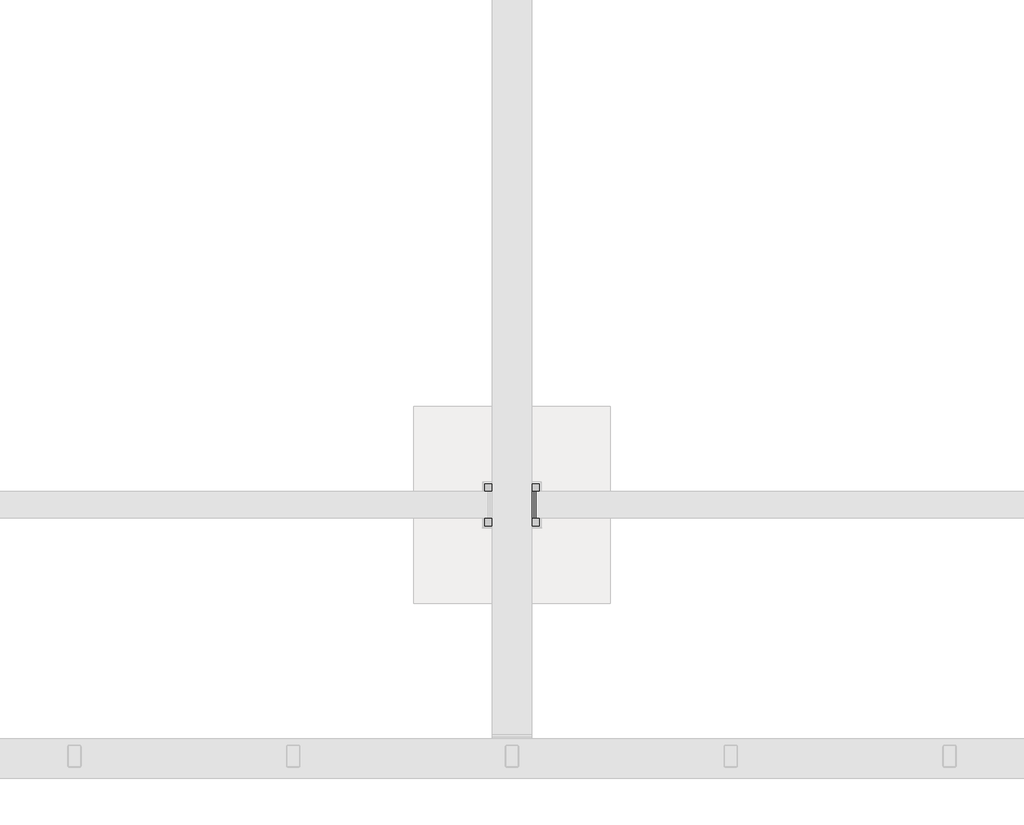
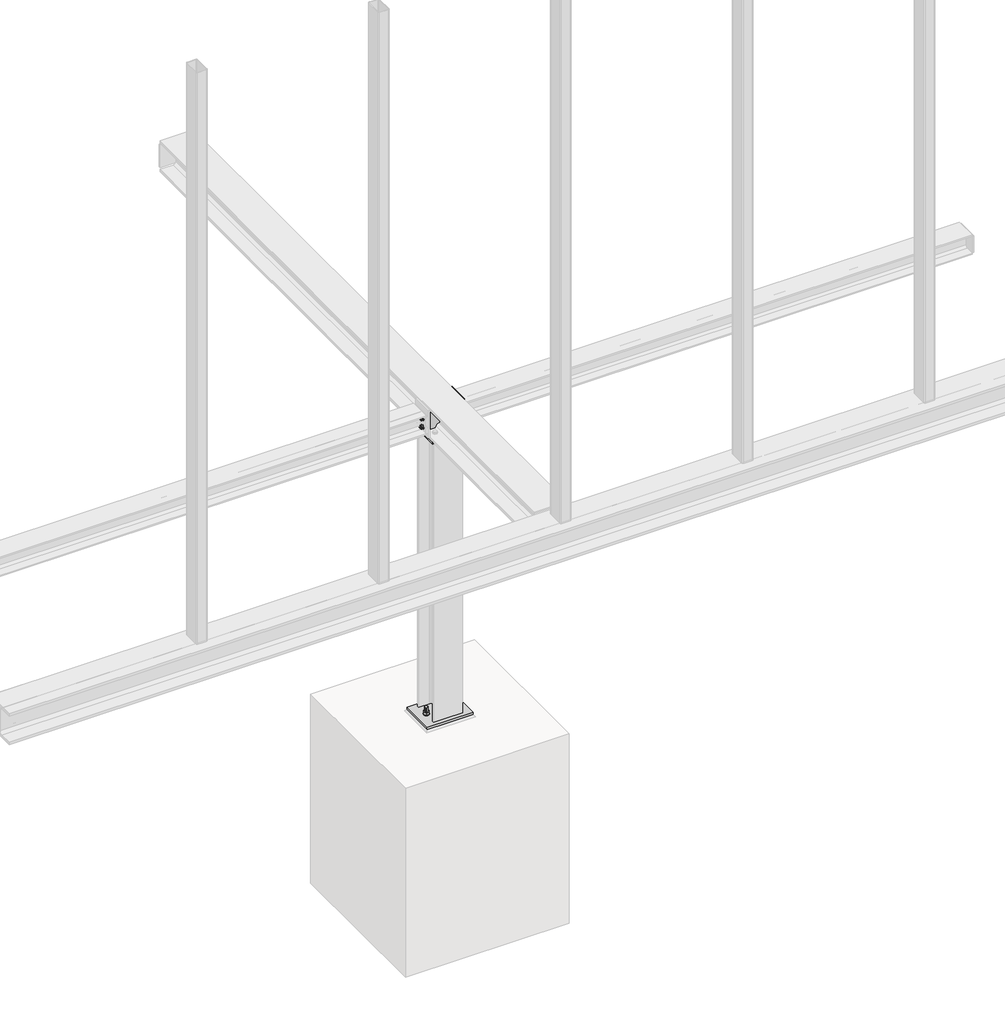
# One storey, part 5 of 31: 9 proxies.
"""IFC4 building model written with IfcOpenShell, lengths in millimetres."""

from ifc_helpers import new_model, si_unit, point, frame, frame_2d, origin, place, context, project, spatial, polyline, circle_curve, trimmed, segment, composite_curve, outline, extrude, element, save

model = new_model("IFC4")

# Units and contexts
model_context = context("Model", 3, world=origin())
ifc_project = project(units=[si_unit("LENGTHUNIT", "METRE", prefix="MILLI")], contexts=[model_context])

# Site, building, storey
site = spatial("IfcSite", under=ifc_project)
building = spatial("IfcBuilding", under=site)
storey = spatial("IfcBuildingStorey", under=building, Name="Základy", Elevation=-1200.0)

# Proxies
placement = place(None, origin())
element("IfcBuildingElementProxy", 1, Name="PLECH", ObjectType="PLECH", at=placement, inside=storey, context=model_context, shape_type="SweptSolid", body=[
    extrude(outline(polyline([(3150.0, 1200.0), (3150.0, 1320.0), (3160.0, 1320.0), (3160.0, 1200.0), (3150.0, 1200.0)])), frame((0.0, 0.0, -299.0), z_axis=(0.0, 0.0, 1.0), x_axis=(1.0, 0.0, 0.0)), (0.0, 0.0, 1.0), 98.0),
])
element("IfcBuildingElementProxy", 2, Name="PLECH", ObjectType="PLECH", at=placement, inside=storey, context=model_context, shape_type="SweptSolid", body=[
    extrude(outline(composite_curve([segment(polyline([(-174.0, 2960.0), (-326.0, 2960.0), (-326.0, 3020.5)]), True, "CONTINUOUS"), segment(trimmed(circle_curve(frame_2d((-326.0, 3045.5)), 25.0), [point((-326.0, 3020.5))], [point((-301.0, 3045.5))], True, "CARTESIAN"), True, "CONTINUOUS"), segment(polyline([(-301.0, 3045.5), (-199.0, 3045.5)]), True, "CONTINUOUS"), segment(trimmed(circle_curve(frame_2d((-174.0, 3045.5)), 25.0), [point((-199.0, 3045.5))], [point((-174.0, 3020.5))], True, "CARTESIAN"), True, "CONTINUOUS"), segment(polyline([(-174.0, 3020.5), (-174.0, 2960.0)]), True, "CONTINUOUS")], self_intersect=False)), frame((0.0, 1256.0, 0.0), z_axis=(0.0, 1.0, 0.0), x_axis=(0.0, 0.0, 1.0)), (0.0, 0.0, 1.0), 8.0),
])
element("IfcBuildingElementProxy", 3, Name="PLECH", ObjectType="PLECH", at=placement, inside=storey, context=model_context, shape_type="SweptSolid", body=[
    extrude(outline(polyline([(3140.0, 1200.0), (3140.0, 1320.0), (3150.0, 1320.0), (3150.0, 1200.0), (3140.0, 1200.0)])), frame((0.0, 0.0, -332.0), z_axis=(0.0, 0.0, 1.0), x_axis=(1.0, 0.0, 0.0)), (0.0, 0.0, 1.0), 164.0),
])
element("IfcBuildingElementProxy", 4, Name="PLECH", ObjectType="PLECH", at=placement, inside=storey, context=model_context, shape_type="SweptSolid", body=[
    extrude(outline(composite_curve([segment(polyline([(-174.0, 3140.0), (-174.0, 3079.5)]), True, "CONTINUOUS"), segment(trimmed(circle_curve(frame_2d((-174.0, 3054.5)), 25.0), [point((-174.0, 3079.5))], [point((-199.0, 3054.5))], True, "CARTESIAN"), True, "CONTINUOUS"), segment(polyline([(-199.0, 3054.5), (-301.0, 3054.5)]), True, "CONTINUOUS"), segment(trimmed(circle_curve(frame_2d((-326.0, 3054.5)), 25.0), [point((-301.0, 3054.5))], [point((-326.0, 3079.5))], True, "CARTESIAN"), True, "CONTINUOUS"), segment(polyline([(-326.0, 3079.5), (-326.0, 3140.0), (-174.0, 3140.0)]), True, "CONTINUOUS")], self_intersect=False)), frame((0.0, 1256.0, 0.0), z_axis=(0.0, 1.0, 0.0), x_axis=(0.0, 0.0, 1.0)), (0.0, 0.0, 1.0), 8.0),
])
element("IfcBuildingElementProxy", 5, Name="PLECH", ObjectType="PLECH", at=placement, inside=storey, context=model_context, shape_type="SweptSolid", body=[
    extrude(outline(polyline([(3175.0, 1356.0), (3175.0, 1164.0), (2925.0, 1164.0), (2925.0, 1356.0), (3175.0, 1356.0)])), frame((0.0, 0.0, -1990.0), z_axis=(0.0, 0.0, 1.0), x_axis=(1.0, 0.0, 0.0)), (0.0, 0.0, 1.0), 15.0),
])
element("IfcBuildingElementProxy", 6, Name="PLECH", ObjectType="PLECH", at=placement, inside=storey, context=model_context, shape_type="SweptSolid", body=[
    extrude(outline(polyline([(3140.0, 1346.0), (3140.0, 1174.0), (2960.0, 1174.0), (2960.0, 1346.0), (3140.0, 1346.0)])), frame((0.0, 0.0, -350.0), z_axis=(0.0, 0.0, 1.0), x_axis=(1.0, 0.0, 0.0)), (0.0, 0.0, 1.0), 10.0),
])
element("IfcBuildingElementProxy", 7, Name="Bolt assembly", ObjectType="Bolt assembly", at=placement, inside=storey, context=model_context, shape_type="SweptSolid", body=[
    extrude(outline(composite_curve([segment(trimmed(circle_curve(frame_2d((1230.0, -225.0)), 6.5), [point((1230.0, -231.5))], [point((1230.0, -218.5))], False, "CARTESIAN"), True, "CONTINUOUS"), segment(trimmed(circle_curve(frame_2d((1230.0, -225.0)), 6.5), [point((1230.0, -218.5))], [point((1230.0, -231.5))], False, "CARTESIAN"), True, "CONTINUOUS")], self_intersect=False)), frame((2949.9, 0.0, 0.0), z_axis=(1.0, 0.0, 0.0), x_axis=(0.0, 1.0, 0.0)), (0.0, 0.0, 1.0), 10.0),
    extrude(outline(polyline([(1230.0, -235.3923048), (1221.0, -230.1961524), (1221.0, -219.8038476), (1230.0, -214.6076952), (1239.0, -219.8038476), (1239.0, -230.1961524), (1230.0, -235.3923048)])), frame((2962.5, 0.0, 0.0), z_axis=(1.0, 0.0, 0.0), x_axis=(0.0, 1.0, 0.0)), (0.0, 0.0, 1.0), 7.5),
    extrude(outline(composite_curve([segment(trimmed(circle_curve(frame_2d((1230.0, -225.0)), 6.0), [point((1230.0, -231.0))], [point((1230.0, -219.0))], False, "CARTESIAN"), True, "CONTINUOUS"), segment(trimmed(circle_curve(frame_2d((1230.0, -225.0)), 6.0), [point((1230.0, -219.0))], [point((1230.0, -231.0))], False, "CARTESIAN"), True, "CONTINUOUS")], self_intersect=False)), frame((2922.5, 0.0, 0.0), z_axis=(1.0, 0.0, 0.0), x_axis=(0.0, 1.0, 0.0)), (0.0, 0.0, 1.0), 40.0),
    extrude(outline(composite_curve([segment(trimmed(circle_curve(frame_2d((1230.0, -225.0)), 12.0), [point((1230.0, -237.0))], [point((1230.0, -213.0))], False, "CARTESIAN"), True, "CONTINUOUS"), segment(trimmed(circle_curve(frame_2d((1230.0, -225.0)), 12.0), [point((1230.0, -213.0))], [point((1230.0, -237.0))], False, "CARTESIAN"), True, "CONTINUOUS")], self_intersect=False)), frame((2960.0, 0.0, 0.0), z_axis=(1.0, 0.0, 0.0), x_axis=(0.0, 1.0, 0.0)), (0.0, 0.0, 1.0), 2.5),
    extrude(outline(composite_curve([segment(trimmed(circle_curve(frame_2d((1230.0, -225.0)), 12.0), [point((1230.0, -237.0))], [point((1230.0, -213.0))], False, "CARTESIAN"), True, "CONTINUOUS"), segment(trimmed(circle_curve(frame_2d((1230.0, -225.0)), 12.0), [point((1230.0, -213.0))], [point((1230.0, -237.0))], False, "CARTESIAN"), True, "CONTINUOUS")], self_intersect=False)), frame((2937.5, 0.0, 0.0), z_axis=(1.0, 0.0, 0.0), x_axis=(0.0, 1.0, 0.0)), (0.0, 0.0, 1.0), 2.5),
    extrude(outline(polyline([(1230.0, -235.9696551), (1220.5, -230.4848276), (1220.5, -219.5151724), (1230.0, -214.0303449), (1239.5, -219.5151724), (1239.5, -230.4848276), (1230.0, -235.9696551)])), frame((2927.5, 0.0, 0.0), z_axis=(1.0, 0.0, 0.0), x_axis=(0.0, 1.0, 0.0)), (0.0, 0.0, 1.0), 10.0),
    extrude(outline(composite_curve([segment(trimmed(circle_curve(frame_2d((1230.0, -225.0)), 6.5), [point((1230.0, -231.5))], [point((1230.0, -218.5))], False, "CARTESIAN"), True, "CONTINUOUS"), segment(trimmed(circle_curve(frame_2d((1230.0, -225.0)), 6.5), [point((1230.0, -218.5))], [point((1230.0, -231.5))], False, "CARTESIAN"), True, "CONTINUOUS")], self_intersect=False)), frame((2940.0, 0.0, 0.0), z_axis=(1.0, 0.0, 0.0), x_axis=(0.0, 1.0, 0.0)), (0.0, 0.0, 1.0), 10.1),
    extrude(outline(composite_curve([segment(trimmed(circle_curve(frame_2d((1230.0, -275.0)), 6.5), [point((1230.0, -281.5))], [point((1230.0, -268.5))], False, "CARTESIAN"), True, "CONTINUOUS"), segment(trimmed(circle_curve(frame_2d((1230.0, -275.0)), 6.5), [point((1230.0, -268.5))], [point((1230.0, -281.5))], False, "CARTESIAN"), True, "CONTINUOUS")], self_intersect=False)), frame((2949.9, 0.0, 0.0), z_axis=(1.0, 0.0, 0.0), x_axis=(0.0, 1.0, 0.0)), (0.0, 0.0, 1.0), 10.0),
    extrude(outline(polyline([(1230.0, -285.3923048), (1221.0, -280.1961524), (1221.0, -269.8038476), (1230.0, -264.6076952), (1239.0, -269.8038476), (1239.0, -280.1961524), (1230.0, -285.3923048)])), frame((2962.5, 0.0, 0.0), z_axis=(1.0, 0.0, 0.0), x_axis=(0.0, 1.0, 0.0)), (0.0, 0.0, 1.0), 7.5),
    extrude(outline(composite_curve([segment(trimmed(circle_curve(frame_2d((1230.0, -275.0)), 6.0), [point((1230.0, -281.0))], [point((1230.0, -269.0))], False, "CARTESIAN"), True, "CONTINUOUS"), segment(trimmed(circle_curve(frame_2d((1230.0, -275.0)), 6.0), [point((1230.0, -269.0))], [point((1230.0, -281.0))], False, "CARTESIAN"), True, "CONTINUOUS")], self_intersect=False)), frame((2922.5, 0.0, 0.0), z_axis=(1.0, 0.0, 0.0), x_axis=(0.0, 1.0, 0.0)), (0.0, 0.0, 1.0), 40.0),
    extrude(outline(composite_curve([segment(trimmed(circle_curve(frame_2d((1230.0, -275.0)), 12.0), [point((1230.0, -287.0))], [point((1230.0, -263.0))], False, "CARTESIAN"), True, "CONTINUOUS"), segment(trimmed(circle_curve(frame_2d((1230.0, -275.0)), 12.0), [point((1230.0, -263.0))], [point((1230.0, -287.0))], False, "CARTESIAN"), True, "CONTINUOUS")], self_intersect=False)), frame((2960.0, 0.0, 0.0), z_axis=(1.0, 0.0, 0.0), x_axis=(0.0, 1.0, 0.0)), (0.0, 0.0, 1.0), 2.5),
    extrude(outline(composite_curve([segment(trimmed(circle_curve(frame_2d((1230.0, -275.0)), 12.0), [point((1230.0, -287.0))], [point((1230.0, -263.0))], False, "CARTESIAN"), True, "CONTINUOUS"), segment(trimmed(circle_curve(frame_2d((1230.0, -275.0)), 12.0), [point((1230.0, -263.0))], [point((1230.0, -287.0))], False, "CARTESIAN"), True, "CONTINUOUS")], self_intersect=False)), frame((2937.5, 0.0, 0.0), z_axis=(1.0, 0.0, 0.0), x_axis=(0.0, 1.0, 0.0)), (0.0, 0.0, 1.0), 2.5),
    extrude(outline(polyline([(1230.0, -285.9696551), (1220.5, -280.4848276), (1220.5, -269.5151724), (1230.0, -264.0303449), (1239.5, -269.5151724), (1239.5, -280.4848276), (1230.0, -285.9696551)])), frame((2927.5, 0.0, 0.0), z_axis=(1.0, 0.0, 0.0), x_axis=(0.0, 1.0, 0.0)), (0.0, 0.0, 1.0), 10.0),
    extrude(outline(composite_curve([segment(trimmed(circle_curve(frame_2d((1230.0, -275.0)), 6.5), [point((1230.0, -281.5))], [point((1230.0, -268.5))], False, "CARTESIAN"), True, "CONTINUOUS"), segment(trimmed(circle_curve(frame_2d((1230.0, -275.0)), 6.5), [point((1230.0, -268.5))], [point((1230.0, -281.5))], False, "CARTESIAN"), True, "CONTINUOUS")], self_intersect=False)), frame((2940.0, 0.0, 0.0), z_axis=(1.0, 0.0, 0.0), x_axis=(0.0, 1.0, 0.0)), (0.0, 0.0, 1.0), 10.1),
    extrude(outline(composite_curve([segment(trimmed(circle_curve(frame_2d((1290.0, -225.0)), 6.5), [point((1290.0, -231.5))], [point((1290.0, -218.5))], False, "CARTESIAN"), True, "CONTINUOUS"), segment(trimmed(circle_curve(frame_2d((1290.0, -225.0)), 6.5), [point((1290.0, -218.5))], [point((1290.0, -231.5))], False, "CARTESIAN"), True, "CONTINUOUS")], self_intersect=False)), frame((2949.9, 0.0, 0.0), z_axis=(1.0, 0.0, 0.0), x_axis=(0.0, 1.0, 0.0)), (0.0, 0.0, 1.0), 10.0),
    extrude(outline(polyline([(1290.0, -235.3923048), (1281.0, -230.1961524), (1281.0, -219.8038476), (1290.0, -214.6076952), (1299.0, -219.8038476), (1299.0, -230.1961524), (1290.0, -235.3923048)])), frame((2962.5, 0.0, 0.0), z_axis=(1.0, 0.0, 0.0), x_axis=(0.0, 1.0, 0.0)), (0.0, 0.0, 1.0), 7.5),
    extrude(outline(composite_curve([segment(trimmed(circle_curve(frame_2d((1290.0, -225.0)), 6.0), [point((1290.0, -231.0))], [point((1290.0, -219.0))], False, "CARTESIAN"), True, "CONTINUOUS"), segment(trimmed(circle_curve(frame_2d((1290.0, -225.0)), 6.0), [point((1290.0, -219.0))], [point((1290.0, -231.0))], False, "CARTESIAN"), True, "CONTINUOUS")], self_intersect=False)), frame((2922.5, 0.0, 0.0), z_axis=(1.0, 0.0, 0.0), x_axis=(0.0, 1.0, 0.0)), (0.0, 0.0, 1.0), 40.0),
    extrude(outline(composite_curve([segment(trimmed(circle_curve(frame_2d((1290.0, -225.0)), 12.0), [point((1290.0, -237.0))], [point((1290.0, -213.0))], False, "CARTESIAN"), True, "CONTINUOUS"), segment(trimmed(circle_curve(frame_2d((1290.0, -225.0)), 12.0), [point((1290.0, -213.0))], [point((1290.0, -237.0))], False, "CARTESIAN"), True, "CONTINUOUS")], self_intersect=False)), frame((2960.0, 0.0, 0.0), z_axis=(1.0, 0.0, 0.0), x_axis=(0.0, 1.0, 0.0)), (0.0, 0.0, 1.0), 2.5),
    extrude(outline(composite_curve([segment(trimmed(circle_curve(frame_2d((1290.0, -225.0)), 12.0), [point((1290.0, -237.0))], [point((1290.0, -213.0))], False, "CARTESIAN"), True, "CONTINUOUS"), segment(trimmed(circle_curve(frame_2d((1290.0, -225.0)), 12.0), [point((1290.0, -213.0))], [point((1290.0, -237.0))], False, "CARTESIAN"), True, "CONTINUOUS")], self_intersect=False)), frame((2937.5, 0.0, 0.0), z_axis=(1.0, 0.0, 0.0), x_axis=(0.0, 1.0, 0.0)), (0.0, 0.0, 1.0), 2.5),
    extrude(outline(polyline([(1290.0, -235.9696551), (1280.5, -230.4848276), (1280.5, -219.5151724), (1290.0, -214.0303449), (1299.5, -219.5151724), (1299.5, -230.4848276), (1290.0, -235.9696551)])), frame((2927.5, 0.0, 0.0), z_axis=(1.0, 0.0, 0.0), x_axis=(0.0, 1.0, 0.0)), (0.0, 0.0, 1.0), 10.0),
    extrude(outline(composite_curve([segment(trimmed(circle_curve(frame_2d((1290.0, -225.0)), 6.5), [point((1290.0, -231.5))], [point((1290.0, -218.5))], False, "CARTESIAN"), True, "CONTINUOUS"), segment(trimmed(circle_curve(frame_2d((1290.0, -225.0)), 6.5), [point((1290.0, -218.5))], [point((1290.0, -231.5))], False, "CARTESIAN"), True, "CONTINUOUS")], self_intersect=False)), frame((2940.0, 0.0, 0.0), z_axis=(1.0, 0.0, 0.0), x_axis=(0.0, 1.0, 0.0)), (0.0, 0.0, 1.0), 10.1),
    extrude(outline(composite_curve([segment(trimmed(circle_curve(frame_2d((1290.0, -275.0)), 6.5), [point((1290.0, -281.5))], [point((1290.0, -268.5))], False, "CARTESIAN"), True, "CONTINUOUS"), segment(trimmed(circle_curve(frame_2d((1290.0, -275.0)), 6.5), [point((1290.0, -268.5))], [point((1290.0, -281.5))], False, "CARTESIAN"), True, "CONTINUOUS")], self_intersect=False)), frame((2949.9, 0.0, 0.0), z_axis=(1.0, 0.0, 0.0), x_axis=(0.0, 1.0, 0.0)), (0.0, 0.0, 1.0), 10.0),
    extrude(outline(polyline([(1290.0, -285.3923048), (1281.0, -280.1961524), (1281.0, -269.8038476), (1290.0, -264.6076952), (1299.0, -269.8038476), (1299.0, -280.1961524), (1290.0, -285.3923048)])), frame((2962.5, 0.0, 0.0), z_axis=(1.0, 0.0, 0.0), x_axis=(0.0, 1.0, 0.0)), (0.0, 0.0, 1.0), 7.5),
    extrude(outline(composite_curve([segment(trimmed(circle_curve(frame_2d((1290.0, -275.0)), 6.0), [point((1290.0, -281.0))], [point((1290.0, -269.0))], False, "CARTESIAN"), True, "CONTINUOUS"), segment(trimmed(circle_curve(frame_2d((1290.0, -275.0)), 6.0), [point((1290.0, -269.0))], [point((1290.0, -281.0))], False, "CARTESIAN"), True, "CONTINUOUS")], self_intersect=False)), frame((2922.5, 0.0, 0.0), z_axis=(1.0, 0.0, 0.0), x_axis=(0.0, 1.0, 0.0)), (0.0, 0.0, 1.0), 40.0),
    extrude(outline(composite_curve([segment(trimmed(circle_curve(frame_2d((1290.0, -275.0)), 12.0), [point((1290.0, -287.0))], [point((1290.0, -263.0))], False, "CARTESIAN"), True, "CONTINUOUS"), segment(trimmed(circle_curve(frame_2d((1290.0, -275.0)), 12.0), [point((1290.0, -263.0))], [point((1290.0, -287.0))], False, "CARTESIAN"), True, "CONTINUOUS")], self_intersect=False)), frame((2960.0, 0.0, 0.0), z_axis=(1.0, 0.0, 0.0), x_axis=(0.0, 1.0, 0.0)), (0.0, 0.0, 1.0), 2.5),
    extrude(outline(composite_curve([segment(trimmed(circle_curve(frame_2d((1290.0, -275.0)), 12.0), [point((1290.0, -287.0))], [point((1290.0, -263.0))], False, "CARTESIAN"), True, "CONTINUOUS"), segment(trimmed(circle_curve(frame_2d((1290.0, -275.0)), 12.0), [point((1290.0, -263.0))], [point((1290.0, -287.0))], False, "CARTESIAN"), True, "CONTINUOUS")], self_intersect=False)), frame((2937.5, 0.0, 0.0), z_axis=(1.0, 0.0, 0.0), x_axis=(0.0, 1.0, 0.0)), (0.0, 0.0, 1.0), 2.5),
    extrude(outline(polyline([(1290.0, -285.9696551), (1280.5, -280.4848276), (1280.5, -269.5151724), (1290.0, -264.0303449), (1299.5, -269.5151724), (1299.5, -280.4848276), (1290.0, -285.9696551)])), frame((2927.5, 0.0, 0.0), z_axis=(1.0, 0.0, 0.0), x_axis=(0.0, 1.0, 0.0)), (0.0, 0.0, 1.0), 10.0),
    extrude(outline(composite_curve([segment(trimmed(circle_curve(frame_2d((1290.0, -275.0)), 6.5), [point((1290.0, -281.5))], [point((1290.0, -268.5))], False, "CARTESIAN"), True, "CONTINUOUS"), segment(trimmed(circle_curve(frame_2d((1290.0, -275.0)), 6.5), [point((1290.0, -268.5))], [point((1290.0, -281.5))], False, "CARTESIAN"), True, "CONTINUOUS")], self_intersect=False)), frame((2940.0, 0.0, 0.0), z_axis=(1.0, 0.0, 0.0), x_axis=(0.0, 1.0, 0.0)), (0.0, 0.0, 1.0), 10.1),
])
element("IfcBuildingElementProxy", 8, Name="Bolt assembly", ObjectType="Bolt assembly", at=placement, inside=storey, context=model_context, shape_type="SweptSolid", body=[
    extrude(outline(composite_curve([segment(trimmed(circle_curve(frame_2d((1230.0, -225.0)), 6.5), [point((1230.0, -231.5))], [point((1230.0, -218.5))], False, "CARTESIAN"), True, "CONTINUOUS"), segment(trimmed(circle_curve(frame_2d((1230.0, -225.0)), 6.5), [point((1230.0, -218.5))], [point((1230.0, -231.5))], False, "CARTESIAN"), True, "CONTINUOUS")], self_intersect=False)), frame((3140.1, 0.0, 0.0), z_axis=(1.0, 0.0, 0.0), x_axis=(0.0, 1.0, 0.0)), (0.0, 0.0, 1.0), 10.0),
    extrude(outline(polyline([(1230.0, -235.3923048), (1221.0, -230.1961524), (1221.0, -219.8038476), (1230.0, -214.6076952), (1239.0, -219.8038476), (1239.0, -230.1961524), (1230.0, -235.3923048)])), frame((3130.0, 0.0, 0.0), z_axis=(1.0, 0.0, 0.0), x_axis=(0.0, 1.0, 0.0)), (0.0, 0.0, 1.0), 7.5),
    extrude(outline(composite_curve([segment(trimmed(circle_curve(frame_2d((1230.0, -225.0)), 6.0), [point((1230.0, -231.0))], [point((1230.0, -219.0))], False, "CARTESIAN"), True, "CONTINUOUS"), segment(trimmed(circle_curve(frame_2d((1230.0, -225.0)), 6.0), [point((1230.0, -219.0))], [point((1230.0, -231.0))], False, "CARTESIAN"), True, "CONTINUOUS")], self_intersect=False)), frame((3137.5, 0.0, 0.0), z_axis=(1.0, 0.0, 0.0), x_axis=(0.0, 1.0, 0.0)), (0.0, 0.0, 1.0), 40.0),
    extrude(outline(composite_curve([segment(trimmed(circle_curve(frame_2d((1230.0, -225.0)), 12.0), [point((1230.0, -237.0))], [point((1230.0, -213.0))], False, "CARTESIAN"), True, "CONTINUOUS"), segment(trimmed(circle_curve(frame_2d((1230.0, -225.0)), 12.0), [point((1230.0, -213.0))], [point((1230.0, -237.0))], False, "CARTESIAN"), True, "CONTINUOUS")], self_intersect=False)), frame((3137.5, 0.0, 0.0), z_axis=(1.0, 0.0, 0.0), x_axis=(0.0, 1.0, 0.0)), (0.0, 0.0, 1.0), 2.5),
    extrude(outline(composite_curve([segment(trimmed(circle_curve(frame_2d((1230.0, -225.0)), 12.0), [point((1230.0, -237.0))], [point((1230.0, -213.0))], False, "CARTESIAN"), True, "CONTINUOUS"), segment(trimmed(circle_curve(frame_2d((1230.0, -225.0)), 12.0), [point((1230.0, -213.0))], [point((1230.0, -237.0))], False, "CARTESIAN"), True, "CONTINUOUS")], self_intersect=False)), frame((3160.0, 0.0, 0.0), z_axis=(1.0, 0.0, 0.0), x_axis=(0.0, 1.0, 0.0)), (0.0, 0.0, 1.0), 2.5),
    extrude(outline(polyline([(1230.0, -235.9696551), (1220.5, -230.4848276), (1220.5, -219.5151724), (1230.0, -214.0303449), (1239.5, -219.5151724), (1239.5, -230.4848276), (1230.0, -235.9696551)])), frame((3162.5, 0.0, 0.0), z_axis=(1.0, 0.0, 0.0), x_axis=(0.0, 1.0, 0.0)), (0.0, 0.0, 1.0), 10.0),
    extrude(outline(composite_curve([segment(trimmed(circle_curve(frame_2d((1230.0, -225.0)), 6.5), [point((1230.0, -231.5))], [point((1230.0, -218.5))], False, "CARTESIAN"), True, "CONTINUOUS"), segment(trimmed(circle_curve(frame_2d((1230.0, -225.0)), 6.5), [point((1230.0, -218.5))], [point((1230.0, -231.5))], False, "CARTESIAN"), True, "CONTINUOUS")], self_intersect=False)), frame((3149.9, 0.0, 0.0), z_axis=(1.0, 0.0, 0.0), x_axis=(0.0, 1.0, 0.0)), (0.0, 0.0, 1.0), 10.1),
    extrude(outline(composite_curve([segment(trimmed(circle_curve(frame_2d((1230.0, -275.0)), 6.5), [point((1230.0, -281.5))], [point((1230.0, -268.5))], False, "CARTESIAN"), True, "CONTINUOUS"), segment(trimmed(circle_curve(frame_2d((1230.0, -275.0)), 6.5), [point((1230.0, -268.5))], [point((1230.0, -281.5))], False, "CARTESIAN"), True, "CONTINUOUS")], self_intersect=False)), frame((3140.1, 0.0, 0.0), z_axis=(1.0, 0.0, 0.0), x_axis=(0.0, 1.0, 0.0)), (0.0, 0.0, 1.0), 10.0),
    extrude(outline(polyline([(1230.0, -285.3923048), (1221.0, -280.1961524), (1221.0, -269.8038476), (1230.0, -264.6076952), (1239.0, -269.8038476), (1239.0, -280.1961524), (1230.0, -285.3923048)])), frame((3130.0, 0.0, 0.0), z_axis=(1.0, 0.0, 0.0), x_axis=(0.0, 1.0, 0.0)), (0.0, 0.0, 1.0), 7.5),
    extrude(outline(composite_curve([segment(trimmed(circle_curve(frame_2d((1230.0, -275.0)), 6.0), [point((1230.0, -281.0))], [point((1230.0, -269.0))], False, "CARTESIAN"), True, "CONTINUOUS"), segment(trimmed(circle_curve(frame_2d((1230.0, -275.0)), 6.0), [point((1230.0, -269.0))], [point((1230.0, -281.0))], False, "CARTESIAN"), True, "CONTINUOUS")], self_intersect=False)), frame((3137.5, 0.0, 0.0), z_axis=(1.0, 0.0, 0.0), x_axis=(0.0, 1.0, 0.0)), (0.0, 0.0, 1.0), 40.0),
    extrude(outline(composite_curve([segment(trimmed(circle_curve(frame_2d((1230.0, -275.0)), 12.0), [point((1230.0, -287.0))], [point((1230.0, -263.0))], False, "CARTESIAN"), True, "CONTINUOUS"), segment(trimmed(circle_curve(frame_2d((1230.0, -275.0)), 12.0), [point((1230.0, -263.0))], [point((1230.0, -287.0))], False, "CARTESIAN"), True, "CONTINUOUS")], self_intersect=False)), frame((3137.5, 0.0, 0.0), z_axis=(1.0, 0.0, 0.0), x_axis=(0.0, 1.0, 0.0)), (0.0, 0.0, 1.0), 2.5),
    extrude(outline(composite_curve([segment(trimmed(circle_curve(frame_2d((1230.0, -275.0)), 12.0), [point((1230.0, -287.0))], [point((1230.0, -263.0))], False, "CARTESIAN"), True, "CONTINUOUS"), segment(trimmed(circle_curve(frame_2d((1230.0, -275.0)), 12.0), [point((1230.0, -263.0))], [point((1230.0, -287.0))], False, "CARTESIAN"), True, "CONTINUOUS")], self_intersect=False)), frame((3160.0, 0.0, 0.0), z_axis=(1.0, 0.0, 0.0), x_axis=(0.0, 1.0, 0.0)), (0.0, 0.0, 1.0), 2.5),
    extrude(outline(polyline([(1230.0, -285.9696551), (1220.5, -280.4848276), (1220.5, -269.5151724), (1230.0, -264.0303449), (1239.5, -269.5151724), (1239.5, -280.4848276), (1230.0, -285.9696551)])), frame((3162.5, 0.0, 0.0), z_axis=(1.0, 0.0, 0.0), x_axis=(0.0, 1.0, 0.0)), (0.0, 0.0, 1.0), 10.0),
    extrude(outline(composite_curve([segment(trimmed(circle_curve(frame_2d((1230.0, -275.0)), 6.5), [point((1230.0, -281.5))], [point((1230.0, -268.5))], False, "CARTESIAN"), True, "CONTINUOUS"), segment(trimmed(circle_curve(frame_2d((1230.0, -275.0)), 6.5), [point((1230.0, -268.5))], [point((1230.0, -281.5))], False, "CARTESIAN"), True, "CONTINUOUS")], self_intersect=False)), frame((3149.9, 0.0, 0.0), z_axis=(1.0, 0.0, 0.0), x_axis=(0.0, 1.0, 0.0)), (0.0, 0.0, 1.0), 10.1),
    extrude(outline(composite_curve([segment(trimmed(circle_curve(frame_2d((1290.0, -225.0)), 6.5), [point((1290.0, -231.5))], [point((1290.0, -218.5))], False, "CARTESIAN"), True, "CONTINUOUS"), segment(trimmed(circle_curve(frame_2d((1290.0, -225.0)), 6.5), [point((1290.0, -218.5))], [point((1290.0, -231.5))], False, "CARTESIAN"), True, "CONTINUOUS")], self_intersect=False)), frame((3140.1, 0.0, 0.0), z_axis=(1.0, 0.0, 0.0), x_axis=(0.0, 1.0, 0.0)), (0.0, 0.0, 1.0), 10.0),
    extrude(outline(polyline([(1290.0, -235.3923048), (1281.0, -230.1961524), (1281.0, -219.8038476), (1290.0, -214.6076952), (1299.0, -219.8038476), (1299.0, -230.1961524), (1290.0, -235.3923048)])), frame((3130.0, 0.0, 0.0), z_axis=(1.0, 0.0, 0.0), x_axis=(0.0, 1.0, 0.0)), (0.0, 0.0, 1.0), 7.5),
    extrude(outline(composite_curve([segment(trimmed(circle_curve(frame_2d((1290.0, -225.0)), 6.0), [point((1290.0, -231.0))], [point((1290.0, -219.0))], False, "CARTESIAN"), True, "CONTINUOUS"), segment(trimmed(circle_curve(frame_2d((1290.0, -225.0)), 6.0), [point((1290.0, -219.0))], [point((1290.0, -231.0))], False, "CARTESIAN"), True, "CONTINUOUS")], self_intersect=False)), frame((3137.5, 0.0, 0.0), z_axis=(1.0, 0.0, 0.0), x_axis=(0.0, 1.0, 0.0)), (0.0, 0.0, 1.0), 40.0),
    extrude(outline(composite_curve([segment(trimmed(circle_curve(frame_2d((1290.0, -225.0)), 12.0), [point((1290.0, -237.0))], [point((1290.0, -213.0))], False, "CARTESIAN"), True, "CONTINUOUS"), segment(trimmed(circle_curve(frame_2d((1290.0, -225.0)), 12.0), [point((1290.0, -213.0))], [point((1290.0, -237.0))], False, "CARTESIAN"), True, "CONTINUOUS")], self_intersect=False)), frame((3137.5, 0.0, 0.0), z_axis=(1.0, 0.0, 0.0), x_axis=(0.0, 1.0, 0.0)), (0.0, 0.0, 1.0), 2.5),
    extrude(outline(composite_curve([segment(trimmed(circle_curve(frame_2d((1290.0, -225.0)), 12.0), [point((1290.0, -237.0))], [point((1290.0, -213.0))], False, "CARTESIAN"), True, "CONTINUOUS"), segment(trimmed(circle_curve(frame_2d((1290.0, -225.0)), 12.0), [point((1290.0, -213.0))], [point((1290.0, -237.0))], False, "CARTESIAN"), True, "CONTINUOUS")], self_intersect=False)), frame((3160.0, 0.0, 0.0), z_axis=(1.0, 0.0, 0.0), x_axis=(0.0, 1.0, 0.0)), (0.0, 0.0, 1.0), 2.5),
    extrude(outline(polyline([(1290.0, -235.9696551), (1280.5, -230.4848276), (1280.5, -219.5151724), (1290.0, -214.0303449), (1299.5, -219.5151724), (1299.5, -230.4848276), (1290.0, -235.9696551)])), frame((3162.5, 0.0, 0.0), z_axis=(1.0, 0.0, 0.0), x_axis=(0.0, 1.0, 0.0)), (0.0, 0.0, 1.0), 10.0),
    extrude(outline(composite_curve([segment(trimmed(circle_curve(frame_2d((1290.0, -225.0)), 6.5), [point((1290.0, -231.5))], [point((1290.0, -218.5))], False, "CARTESIAN"), True, "CONTINUOUS"), segment(trimmed(circle_curve(frame_2d((1290.0, -225.0)), 6.5), [point((1290.0, -218.5))], [point((1290.0, -231.5))], False, "CARTESIAN"), True, "CONTINUOUS")], self_intersect=False)), frame((3149.9, 0.0, 0.0), z_axis=(1.0, 0.0, 0.0), x_axis=(0.0, 1.0, 0.0)), (0.0, 0.0, 1.0), 10.1),
    extrude(outline(composite_curve([segment(trimmed(circle_curve(frame_2d((1290.0, -275.0)), 6.5), [point((1290.0, -281.5))], [point((1290.0, -268.5))], False, "CARTESIAN"), True, "CONTINUOUS"), segment(trimmed(circle_curve(frame_2d((1290.0, -275.0)), 6.5), [point((1290.0, -268.5))], [point((1290.0, -281.5))], False, "CARTESIAN"), True, "CONTINUOUS")], self_intersect=False)), frame((3140.1, 0.0, 0.0), z_axis=(1.0, 0.0, 0.0), x_axis=(0.0, 1.0, 0.0)), (0.0, 0.0, 1.0), 10.0),
    extrude(outline(polyline([(1290.0, -285.3923048), (1281.0, -280.1961524), (1281.0, -269.8038476), (1290.0, -264.6076952), (1299.0, -269.8038476), (1299.0, -280.1961524), (1290.0, -285.3923048)])), frame((3130.0, 0.0, 0.0), z_axis=(1.0, 0.0, 0.0), x_axis=(0.0, 1.0, 0.0)), (0.0, 0.0, 1.0), 7.5),
    extrude(outline(composite_curve([segment(trimmed(circle_curve(frame_2d((1290.0, -275.0)), 6.0), [point((1290.0, -281.0))], [point((1290.0, -269.0))], False, "CARTESIAN"), True, "CONTINUOUS"), segment(trimmed(circle_curve(frame_2d((1290.0, -275.0)), 6.0), [point((1290.0, -269.0))], [point((1290.0, -281.0))], False, "CARTESIAN"), True, "CONTINUOUS")], self_intersect=False)), frame((3137.5, 0.0, 0.0), z_axis=(1.0, 0.0, 0.0), x_axis=(0.0, 1.0, 0.0)), (0.0, 0.0, 1.0), 40.0),
    extrude(outline(composite_curve([segment(trimmed(circle_curve(frame_2d((1290.0, -275.0)), 12.0), [point((1290.0, -287.0))], [point((1290.0, -263.0))], False, "CARTESIAN"), True, "CONTINUOUS"), segment(trimmed(circle_curve(frame_2d((1290.0, -275.0)), 12.0), [point((1290.0, -263.0))], [point((1290.0, -287.0))], False, "CARTESIAN"), True, "CONTINUOUS")], self_intersect=False)), frame((3137.5, 0.0, 0.0), z_axis=(1.0, 0.0, 0.0), x_axis=(0.0, 1.0, 0.0)), (0.0, 0.0, 1.0), 2.5),
    extrude(outline(composite_curve([segment(trimmed(circle_curve(frame_2d((1290.0, -275.0)), 12.0), [point((1290.0, -287.0))], [point((1290.0, -263.0))], False, "CARTESIAN"), True, "CONTINUOUS"), segment(trimmed(circle_curve(frame_2d((1290.0, -275.0)), 12.0), [point((1290.0, -263.0))], [point((1290.0, -287.0))], False, "CARTESIAN"), True, "CONTINUOUS")], self_intersect=False)), frame((3160.0, 0.0, 0.0), z_axis=(1.0, 0.0, 0.0), x_axis=(0.0, 1.0, 0.0)), (0.0, 0.0, 1.0), 2.5),
    extrude(outline(polyline([(1290.0, -285.9696551), (1280.5, -280.4848276), (1280.5, -269.5151724), (1290.0, -264.0303449), (1299.5, -269.5151724), (1299.5, -280.4848276), (1290.0, -285.9696551)])), frame((3162.5, 0.0, 0.0), z_axis=(1.0, 0.0, 0.0), x_axis=(0.0, 1.0, 0.0)), (0.0, 0.0, 1.0), 10.0),
    extrude(outline(composite_curve([segment(trimmed(circle_curve(frame_2d((1290.0, -275.0)), 6.5), [point((1290.0, -281.5))], [point((1290.0, -268.5))], False, "CARTESIAN"), True, "CONTINUOUS"), segment(trimmed(circle_curve(frame_2d((1290.0, -275.0)), 6.5), [point((1290.0, -268.5))], [point((1290.0, -281.5))], False, "CARTESIAN"), True, "CONTINUOUS")], self_intersect=False)), frame((3149.9, 0.0, 0.0), z_axis=(1.0, 0.0, 0.0), x_axis=(0.0, 1.0, 0.0)), (0.0, 0.0, 1.0), 10.1),
])
element("IfcBuildingElementProxy", 9, Name="Bolt assembly", ObjectType="Bolt assembly", at=placement, inside=storey, context=model_context, shape_type="SweptSolid", body=[
    extrude(outline(polyline([(2982.7364934, 1260.0), (2978.8682467, 1253.3000002), (2971.1317533, 1253.3000002), (2967.2635066, 1260.0), (2971.1317533, 1266.6999998), (2978.8682467, 1266.6999998), (2982.7364934, 1260.0)])), frame((0.0, 0.0, -2122.0), z_axis=(0.0, 0.0, 1.0), x_axis=(1.0, 0.0, 0.0)), (0.0, 0.0, 1.0), 132.0),
    extrude(outline(composite_curve([segment(trimmed(circle_curve(frame_2d((2975.0, 1260.0)), 8.0), [point((2983.0, 1260.0))], [point((2967.0, 1260.0))], False, "CARTESIAN"), True, "CONTINUOUS"), segment(trimmed(circle_curve(frame_2d((2975.0, 1260.0)), 8.0), [point((2967.0, 1260.0))], [point((2983.0, 1260.0))], False, "CARTESIAN"), True, "CONTINUOUS")], self_intersect=False)), frame((0.0, 0.0, -1990.0), z_axis=(0.0, 0.0, 1.0), x_axis=(1.0, 0.0, 0.0)), (0.0, 0.0, 1.0), 58.0),
    extrude(outline(composite_curve([segment(trimmed(circle_curve(frame_2d((2975.0, 1260.0)), 15.0), [point((2990.0, 1260.0))], [point((2960.0, 1260.0))], False, "CARTESIAN"), True, "CONTINUOUS"), segment(trimmed(circle_curve(frame_2d((2975.0, 1260.0)), 15.0), [point((2960.0, 1260.0))], [point((2990.0, 1260.0))], False, "CARTESIAN"), True, "CONTINUOUS")], self_intersect=False)), frame((0.0, 0.0, -1975.0), z_axis=(0.0, 0.0, 1.0), x_axis=(1.0, 0.0, 0.0)), (0.0, 0.0, 1.0), 3.0),
    extrude(outline(polyline([(2990.4441197, 1260.0), (2982.7220599, 1246.625), (2967.2779401, 1246.625), (2959.5558803, 1260.0), (2967.2779401, 1273.375), (2982.7220599, 1273.375), (2990.4441197, 1260.0)])), frame((0.0, 0.0, -1972.0), z_axis=(0.0, 0.0, 1.0), x_axis=(1.0, 0.0, 0.0)), (0.0, 0.0, 1.0), 13.0),
    extrude(outline(composite_curve([segment(trimmed(circle_curve(frame_2d((2975.0, 1260.0)), 9.0), [point((2984.0, 1260.0))], [point((2966.0, 1260.0))], False, "CARTESIAN"), True, "CONTINUOUS"), segment(trimmed(circle_curve(frame_2d((2975.0, 1260.0)), 9.0), [point((2966.0, 1260.0))], [point((2984.0, 1260.0))], False, "CARTESIAN"), True, "CONTINUOUS")], self_intersect=False)), frame((0.0, 0.0, -1990.0), z_axis=(0.0, 0.0, 1.0), x_axis=(1.0, 0.0, 0.0)), (0.0, 0.0, 1.0), 15.1),
    extrude(outline(polyline([(3132.7364934, 1260.0), (3128.8682467, 1253.3000002), (3121.1317533, 1253.3000002), (3117.2635066, 1260.0), (3121.1317533, 1266.6999998), (3128.8682467, 1266.6999998), (3132.7364934, 1260.0)])), frame((0.0, 0.0, -2122.0), z_axis=(0.0, 0.0, 1.0), x_axis=(1.0, 0.0, 0.0)), (0.0, 0.0, 1.0), 132.0),
    extrude(outline(composite_curve([segment(trimmed(circle_curve(frame_2d((3125.0, 1260.0)), 8.0), [point((3133.0, 1260.0))], [point((3117.0, 1260.0))], False, "CARTESIAN"), True, "CONTINUOUS"), segment(trimmed(circle_curve(frame_2d((3125.0, 1260.0)), 8.0), [point((3117.0, 1260.0))], [point((3133.0, 1260.0))], False, "CARTESIAN"), True, "CONTINUOUS")], self_intersect=False)), frame((0.0, 0.0, -1990.0), z_axis=(0.0, 0.0, 1.0), x_axis=(1.0, 0.0, 0.0)), (0.0, 0.0, 1.0), 58.0),
    extrude(outline(composite_curve([segment(trimmed(circle_curve(frame_2d((3125.0, 1260.0)), 15.0), [point((3140.0, 1260.0))], [point((3110.0, 1260.0))], False, "CARTESIAN"), True, "CONTINUOUS"), segment(trimmed(circle_curve(frame_2d((3125.0, 1260.0)), 15.0), [point((3110.0, 1260.0))], [point((3140.0, 1260.0))], False, "CARTESIAN"), True, "CONTINUOUS")], self_intersect=False)), frame((0.0, 0.0, -1975.0), z_axis=(0.0, 0.0, 1.0), x_axis=(1.0, 0.0, 0.0)), (0.0, 0.0, 1.0), 3.0),
    extrude(outline(polyline([(3140.4441197, 1260.0), (3132.7220599, 1246.625), (3117.2779401, 1246.625), (3109.5558803, 1260.0), (3117.2779401, 1273.375), (3132.7220599, 1273.375), (3140.4441197, 1260.0)])), frame((0.0, 0.0, -1972.0), z_axis=(0.0, 0.0, 1.0), x_axis=(1.0, 0.0, 0.0)), (0.0, 0.0, 1.0), 13.0),
    extrude(outline(composite_curve([segment(trimmed(circle_curve(frame_2d((3125.0, 1260.0)), 9.0), [point((3134.0, 1260.0))], [point((3116.0, 1260.0))], False, "CARTESIAN"), True, "CONTINUOUS"), segment(trimmed(circle_curve(frame_2d((3125.0, 1260.0)), 9.0), [point((3116.0, 1260.0))], [point((3134.0, 1260.0))], False, "CARTESIAN"), True, "CONTINUOUS")], self_intersect=False)), frame((0.0, 0.0, -1990.0), z_axis=(0.0, 0.0, 1.0), x_axis=(1.0, 0.0, 0.0)), (0.0, 0.0, 1.0), 15.1),
])

save(model, "model.ifc")
